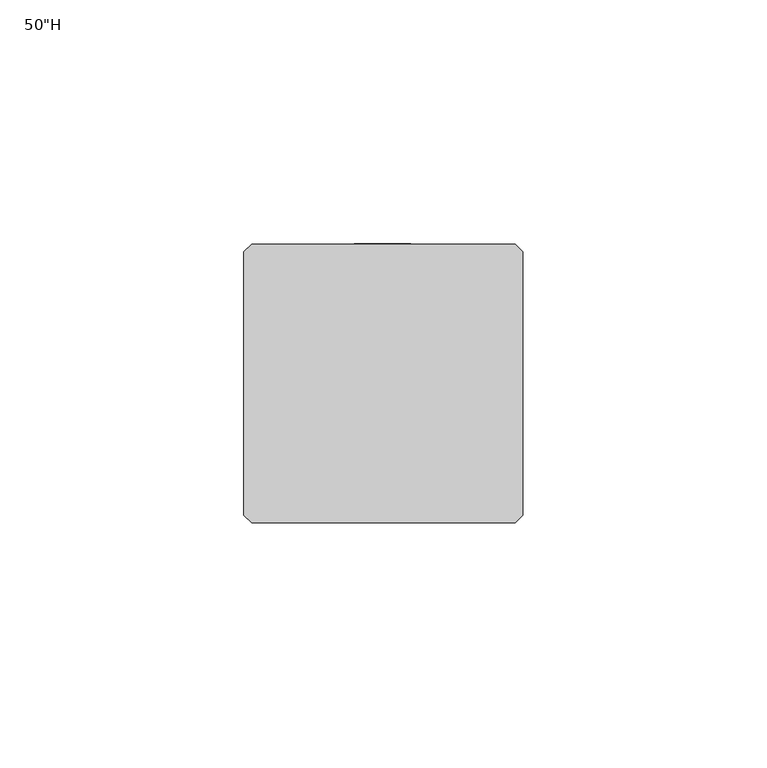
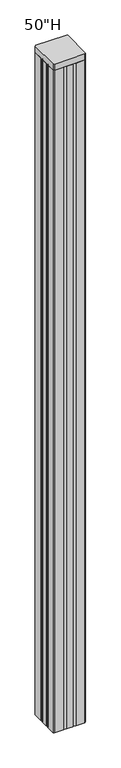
"""IFC4 building model written with IfcOpenShell, lengths in millimetres: furniture geometry."""

from ifc_helpers import new_model, si_unit, point, frame, frame_2d, origin, place, context, project, spatial, polyline, circle_curve, trimmed, segment, composite_curve, outline, extrude, source, transform, mapped, element, save


def furniture_a4b0deac(model_context):
    return source(origin(), model_context, "Body", "SweptSolid", [
        extrude(outline(polyline([(0.0, 1.5874985), (0.0, 55.5625015), (1.5874985, 57.15), (55.5625015, 57.15), (57.15, 55.5625015), (57.15, 1.5874985), (55.5625015, 0.0), (1.5874985, 0.0), (0.0, 1.5874985)])), frame((0.0, 0.0, 1247.775), z_axis=(0.0, 0.0, 1.0), x_axis=(1.0, 0.0, 0.0)), (0.0, 0.0, 1.0), 11.2522202),
        extrude(outline(composite_curve([segment(trimmed(circle_curve(frame_2d((-2.8354169, 36.80848)), 3.7458807), [point((0.0, 34.360617))], [point((0.0245942, 39.2275622))], True, "CARTESIAN"), True, "CONTINUOUS"), segment(polyline([(0.0245942, 39.2275622), (0.0245942, 55.5870957), (1.5874985, 57.15), (17.731938, 57.15)]), True, "CONTINUOUS"), segment(trimmed(circle_curve(frame_2d((20.1510201, 60.0100112)), 3.7458807), [point((17.731938, 57.15))], [point((22.5988831, 57.1745942))], True, "CARTESIAN"), True, "CONTINUOUS"), segment(polyline([(22.5988831, 57.1745942), (34.1701172, 57.1745942)]), True, "CONTINUOUS"), segment(trimmed(circle_curve(frame_2d((36.6179802, 60.0100112)), 3.7458807), [point((34.1701172, 57.1745942))], [point((39.0370624, 57.15))], True, "CARTESIAN"), True, "CONTINUOUS"), segment(polyline([(39.0370624, 57.15), (55.5625015, 57.15), (57.1254058, 55.5870957), (57.1254058, 39.2275622)]), True, "CONTINUOUS"), segment(trimmed(circle_curve(frame_2d((59.9854169, 36.80848)), 3.7458807), [point((57.1254058, 39.2275622))], [point((57.15, 34.360617))], True, "CARTESIAN"), True, "CONTINUOUS"), segment(polyline([(57.15, 34.360617), (57.15, 22.789383)]), True, "CONTINUOUS"), segment(trimmed(circle_curve(frame_2d((59.9854169, 20.34152)), 3.7458807), [point((57.15, 22.789383))], [point((57.1254058, 17.9224378))], True, "CARTESIAN"), True, "CONTINUOUS"), segment(polyline([(57.1254058, 17.9224378), (57.1254058, 1.5629043), (55.5870957, 0.0245942), (39.0370624, 0.0245942)]), True, "CONTINUOUS"), segment(trimmed(circle_curve(frame_2d((36.6179802, -2.8354169)), 3.7458807), [point((39.0370624, 0.0245942))], [point((34.1701172, 0.0))], True, "CARTESIAN"), True, "CONTINUOUS"), segment(polyline([(34.1701172, 0.0), (22.5988831, 0.0)]), True, "CONTINUOUS"), segment(trimmed(circle_curve(frame_2d((20.1510201, -2.8354169)), 3.7458807), [point((22.5988831, 0.0))], [point((17.731938, 0.0245942))], True, "CARTESIAN"), True, "CONTINUOUS"), segment(polyline([(17.731938, 0.0245942), (1.5629043, 0.0245942), (0.0245942, 1.5629043), (0.0245942, 17.9224378)]), True, "CONTINUOUS"), segment(trimmed(circle_curve(frame_2d((-2.8354169, 20.34152)), 3.7458807), [point((0.0245942, 17.9224378))], [point((0.0, 22.789383))], True, "CARTESIAN"), True, "CONTINUOUS"), segment(polyline([(0.0, 22.789383), (0.0, 34.360617)]), True, "CONTINUOUS")], self_intersect=False), holes=[composite_curve([segment(trimmed(circle_curve(frame_2d((-2.8354169, 36.80848)), 4.5396307), [point((0.8183442, 39.5025989))], [point((0.79375, 34.0813213))], False, "CARTESIAN"), True, "CONTINUOUS"), segment(polyline([(0.79375, 34.0813213), (0.79375, 23.0686787)]), True, "CONTINUOUS"), segment(trimmed(circle_curve(frame_2d((-2.8354169, 20.34152)), 4.5396307), [point((0.79375, 23.0686787))], [point((0.8183442, 17.6474011))], False, "CARTESIAN"), True, "CONTINUOUS"), segment(polyline([(0.8183442, 17.6474011), (0.8183442, 1.8916863), (1.8916863, 0.8183442), (17.4569013, 0.8183442)]), True, "CONTINUOUS"), segment(trimmed(circle_curve(frame_2d((20.1510201, -2.8354169)), 4.5396307), [point((17.4569013, 0.8183442))], [point((22.8781788, 0.79375))], False, "CARTESIAN"), True, "CONTINUOUS"), segment(polyline([(22.8781788, 0.79375), (33.8908215, 0.79375)]), True, "CONTINUOUS"), segment(trimmed(circle_curve(frame_2d((36.6179802, -2.8354169)), 4.5396307), [point((33.8908215, 0.79375))], [point((39.3120991, 0.8183442))], False, "CARTESIAN"), True, "CONTINUOUS"), segment(polyline([(39.3120991, 0.8183442), (55.2583137, 0.8183442), (56.3316558, 1.8916863), (56.3316558, 17.6474011)]), True, "CONTINUOUS"), segment(trimmed(circle_curve(frame_2d((59.9854169, 20.34152)), 4.5396307), [point((56.3316558, 17.6474011))], [point((56.35625, 23.0686787))], False, "CARTESIAN"), True, "CONTINUOUS"), segment(polyline([(56.35625, 23.0686787), (56.35625, 34.0813213)]), True, "CONTINUOUS"), segment(trimmed(circle_curve(frame_2d((59.9854169, 36.80848)), 4.5396307), [point((56.35625, 34.0813213))], [point((56.3316558, 39.5025989))], False, "CARTESIAN"), True, "CONTINUOUS"), segment(polyline([(56.3316558, 39.5025989), (56.3316558, 55.2583137), (55.2337195, 56.35625), (39.3120991, 56.35625)]), True, "CONTINUOUS"), segment(trimmed(circle_curve(frame_2d((36.6179802, 60.0100112)), 4.5396307), [point((39.3120991, 56.35625))], [point((33.8908215, 56.3808442))], False, "CARTESIAN"), True, "CONTINUOUS"), segment(polyline([(33.8908215, 56.3808442), (22.8781788, 56.3808442)]), True, "CONTINUOUS"), segment(trimmed(circle_curve(frame_2d((20.1510201, 60.0100112)), 4.5396307), [point((22.8781788, 56.3808442))], [point((17.4569013, 56.35625))], False, "CARTESIAN"), True, "CONTINUOUS"), segment(polyline([(17.4569013, 56.35625), (1.9162805, 56.35625), (0.8183442, 55.2583137), (0.8183442, 39.5025989)]), True, "CONTINUOUS")], self_intersect=False)]), frame((0.0, 0.0, 19.84375), z_axis=(0.0, 0.0, 1.0), x_axis=(1.0, 0.0, 0.0)), (0.0, 0.0, 1.0), 1227.93125),
    ])


if __name__ == "__main__":
    model = new_model("IFC4")
    model_context = context("Model", 3, world=origin())
    ifc_project = project(units=[si_unit("LENGTHUNIT", "METRE", prefix="MILLI")], contexts=[model_context])
    site = spatial("IfcSite", under=ifc_project)
    building = spatial("IfcBuilding", under=site)
    placement = place(None, origin())
    furniture_shape = furniture_a4b0deac(model_context)
    element("IfcFurniture", 1, ObjectType="HON - Accelerate - Connector - X Post : 50\"H", at=placement, inside=building, context=model_context, shape_type="MappedRepresentation", body=[
        mapped(furniture_shape, transform((0.0, 0.0, 0.0), x_axis=(1.0, 0.0, 0.0), y_axis=(0.0, 1.0, 0.0), z_axis=(0.0, 0.0, 1.0))),
    ])
    save(model, "model.ifc")
